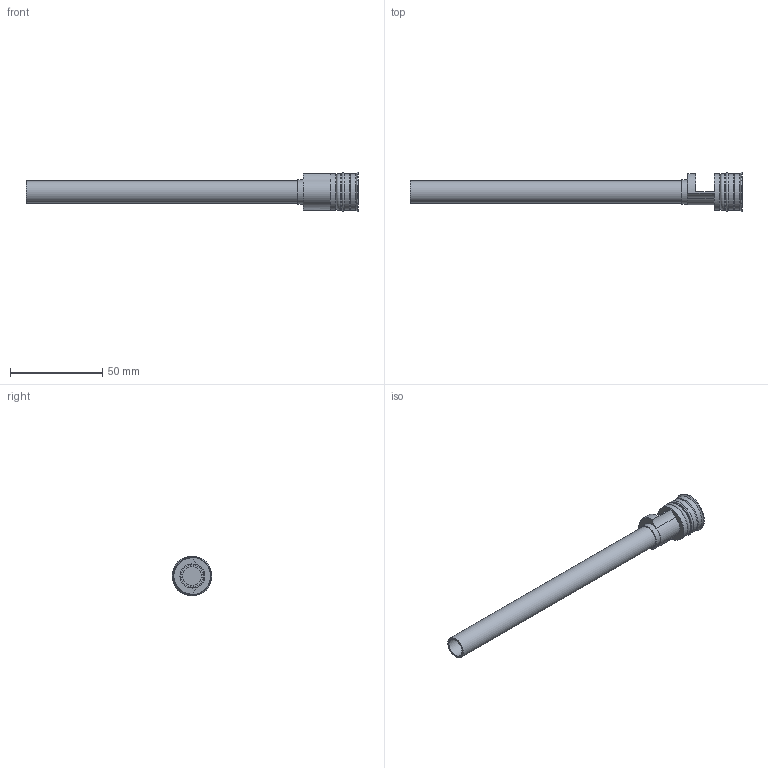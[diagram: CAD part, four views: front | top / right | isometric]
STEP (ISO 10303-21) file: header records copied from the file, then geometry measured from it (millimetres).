
FILE_DESCRIPTION( ( 'STEP AP214' ), '1' );
FILE_NAME( 'p:/temp/worker_240/temp/exporttempdir_1400_683_JbWYT/format_0/RF-20Fx150.stp', '2021-02-05T19:50:05', ( 'License CC BY-ND 4.0' ), ( 'CADENAS' ), ' ', 'PARTsolutions', ' ' );
FILE_SCHEMA( ( 'AUTOMOTIVE_DESIGN { 1 0 10303 214 1 1 1 1 }' ) );
Length unit declared in the file: millimetre
Products named in the file (1): _RF-20Fx150
Bounding box: 179.5 x 21.5 x 21.5 mm (x, y, z)
Volume: 10838.7 mm3; surface area: 13826.2 mm2
Topology: 1 solids, 1 shells, 48 faces, 110 edges, 70 vertices
Faces by surface type: plane 27, cylinder 13, cone 5, torus 3
Full cylindrical faces by diameter (mm): 10 x2, 12 x1, 13 x1, 20 x4, 21.5 x1
Entity records: 1671 total; most frequent: CARTESIAN_POINT 228, DIRECTION 221, ORIENTED_EDGE 184, EDGE_CURVE 92, AXIS2_PLACEMENT_3D 85, EDGE_LOOP 72, VERTEX_POINT 70, FACE_OUTER_BOUND 60
